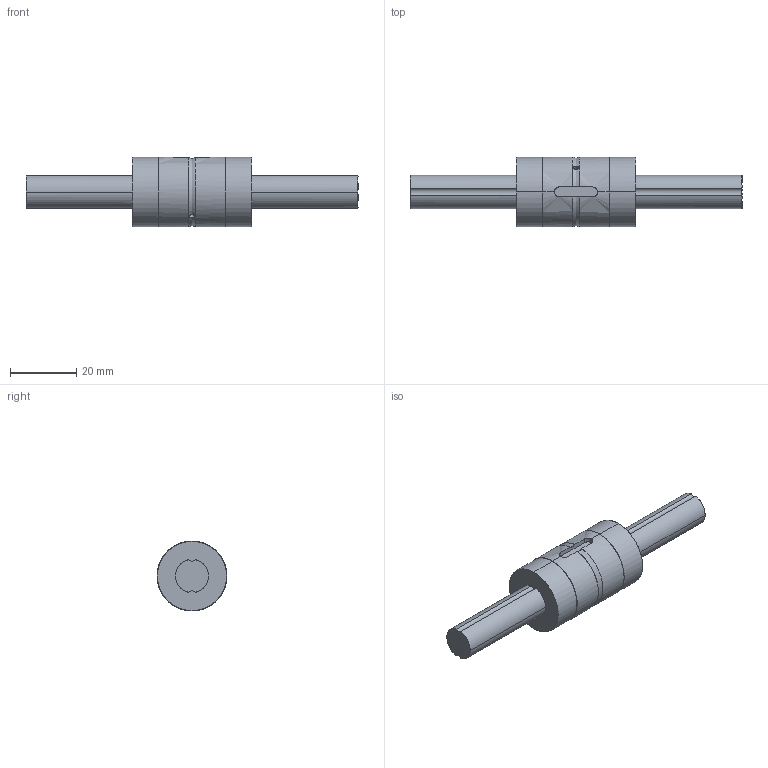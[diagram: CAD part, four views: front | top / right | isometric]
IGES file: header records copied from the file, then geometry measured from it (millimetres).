
Global section: file name: No Iges File Name specified; native system: AutoDesk Inventor R11.0; preprocessor: AutoDesk Inventor Iges Exporter R11.0; author: No Author specified; organization: No Organization specified; date: 20150223.132640; units: millimetre
Bounding box: 100 x 21 x 21 mm (x, y, z)
Surface area: 7469.1 mm2 (no closed solid volume)
Topology: 0 solids, 0 shells, 36 faces, 278 edges, 278 vertices
Faces by surface type: bspline 36
